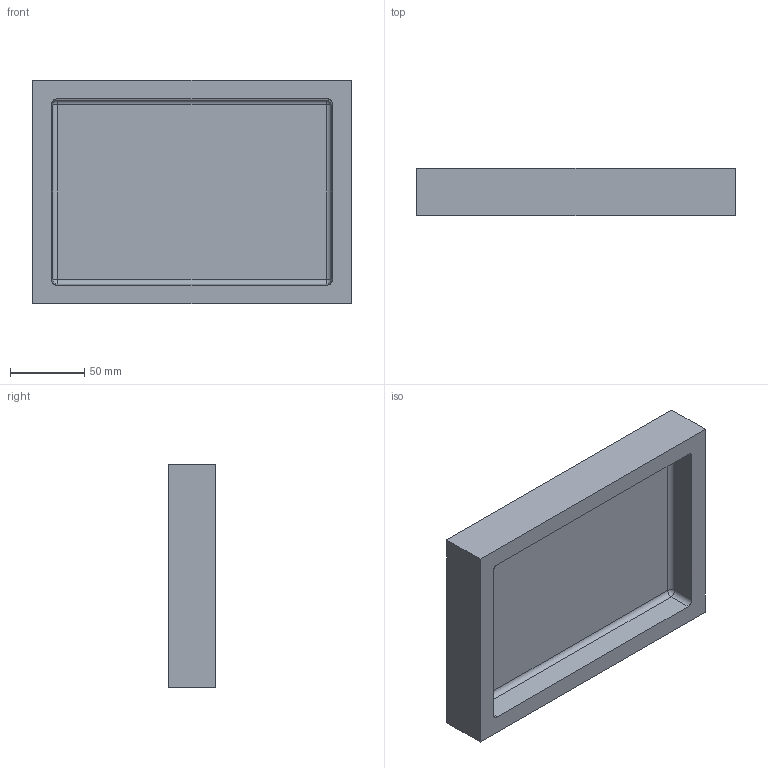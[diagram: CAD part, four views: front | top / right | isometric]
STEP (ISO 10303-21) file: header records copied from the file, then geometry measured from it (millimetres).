
FILE_DESCRIPTION (( 'STEP AP214' ), '1' );
FILE_NAME ('1120E – 933 TOP PID 4-10-2025.STEP', '2025-05-22T00:12:16', ( '' ), ( '' ), 'SwSTEP 2.0', 'SolidWorks 2021', '' );
FILE_SCHEMA (( 'AUTOMOTIVE_DESIGN' ));
Length unit declared in the file: inch
Products named in the file (1): 1120E – 933 TOP PID 4-10-2025
Bounding box: 214.88 x 31.75 x 151.26 mm (x, y, z)
Volume: 583386.4 mm3; surface area: 98817 mm2
Topology: 1 solids, 1 shells, 23 faces, 52 edges, 28 vertices
Faces by surface type: plane 11, cylinder 8, sphere 4
Entity records: 638 total; most frequent: CARTESIAN_POINT 112, DIRECTION 104, ORIENTED_EDGE 96, EDGE_CURVE 48, AXIS2_PLACEMENT_3D 36, LINE 32, VECTOR 32, VERTEX_POINT 28
